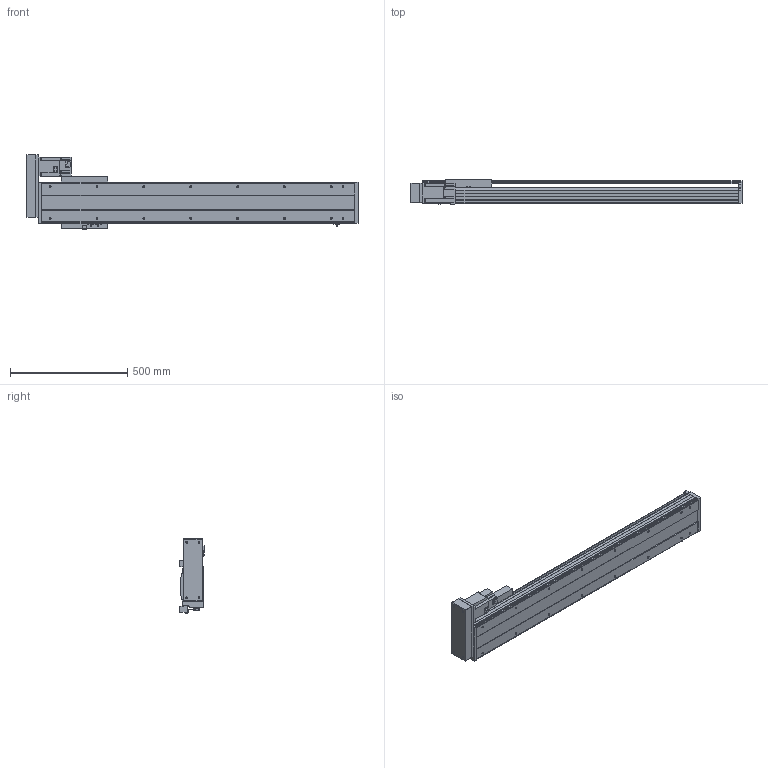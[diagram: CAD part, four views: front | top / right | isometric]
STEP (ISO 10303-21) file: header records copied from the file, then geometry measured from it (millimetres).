
FILE_DESCRIPTION(/* description */ ('STEP AP214'),/* implementation_level */ '2;1');
FILE_NAME(/* name */ 'PSS200-L10-S1000-BL-T75-C1-N(0)',/* time_stamp */ '2022-06-06T04:50:28+02:00',/* author */ ('License CC BY-ND 4.0'),/* organization */ ('CADENAS'),/* preprocessor_version */ 'ST-DEVELOPER v18.102',/* originating_system */ 'PARTsolutions',/* authorisation */ ' ');
FILE_SCHEMA (('AUTOMOTIVE_DESIGN {1 0 10303 214 3 1 1}'));
Length unit declared in the file: millimetre
Products named in the file (8): PSS200-L10-S1000-BL-T75-C1-N(0); PSS200-S1000-BL-N_S; T75-p1; PSS200BL-N_h; PSS200-N_sensor; PSS200-BL-C1-N_sl; PSS200-N_Q; PSS200-S1000-BL-C1-N_body
Assembly tree (9 placements, depth 2):
  PSS200-L10-S1000-BL-T75-C1-N(0)
    PSS200-S1000-BL-N_S
    T75-p1
    PSS200BL-N_h
    PSS200-N_sensor  x3
    PSS200-BL-C1-N_sl
    PSS200-N_Q
    PSS200-S1000-BL-C1-N_body
Bounding box: 1416.85 x 105.3 x 317.86 mm (x, y, z)
Volume: 9420391.7 mm3; surface area: 2223750.8 mm2
Topology: 9 solids, 9 shells, 612 faces, 1633 edges, 1078 vertices
Faces by surface type: plane 466, cylinder 118, cone 24, sphere 4
Full cylindrical faces by diameter (mm): 4 x2, 4.5 x4, 6 x7, 6.647 x20, 7.4 x4, 8 x8, 10 x6, 25 x1, 40 x1, 67 x1
Entity records: 16941 total; most frequent: CARTESIAN_POINT 2907, DIRECTION 2812, ORIENTED_EDGE 2762, EDGE_CURVE 1381, LINE 1090, VECTOR 1090, VERTEX_POINT 956, AXIS2_PLACEMENT_3D 861
